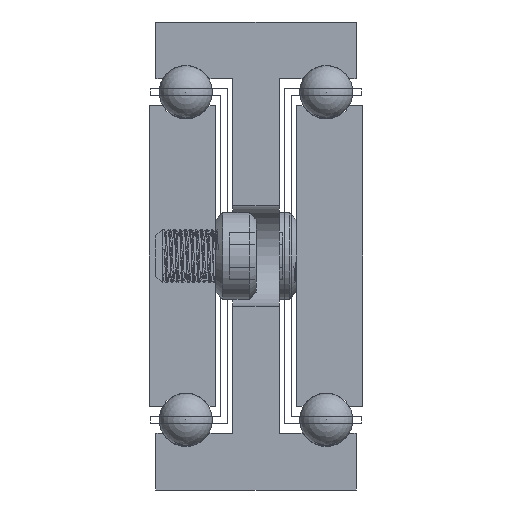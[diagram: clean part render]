
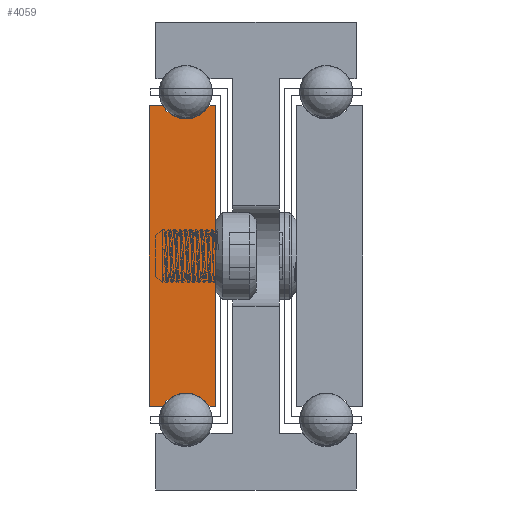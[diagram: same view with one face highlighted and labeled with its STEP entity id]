
A CAD part, front view. The second image highlights one B-rep face of the part: STEP entity #4059.
In plain terms, the highlighted planar face has unit normal (0, -1, 0).
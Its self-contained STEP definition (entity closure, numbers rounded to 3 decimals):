
#304=LINE('',#6166,#516);
#307=LINE('',#6172,#519);
#311=LINE('',#6184,#523);
#314=LINE('',#6190,#526);
#317=LINE('',#6196,#529);
#321=LINE('',#6206,#533);
#516=VECTOR('',#4926,1.);
#519=VECTOR('',#4931,1.);
#523=VECTOR('',#4943,1.);
#526=VECTOR('',#4948,1.);
#529=VECTOR('',#4953,1.);
#533=VECTOR('',#4965,1.);
#733=PLANE('',#4379);
#1065=FACE_OUTER_BOUND('',#1311,.T.);
#1311=EDGE_LOOP('',(#3180,#3181,#3182,#3183,#3184,#3185,#3186,#3187));
#1725=CIRCLE('',#4370,4.);
#1727=CIRCLE('',#4376,4.);
#2038=VERTEX_POINT('',#6163);
#2039=VERTEX_POINT('',#6165);
#2041=VERTEX_POINT('',#6171);
#2043=VERTEX_POINT('',#6177);
#2045=VERTEX_POINT('',#6183);
#2047=VERTEX_POINT('',#6189);
#2049=VERTEX_POINT('',#6195);
#2051=VERTEX_POINT('',#6201);
#2572=EDGE_CURVE('',#2039,#2038,#304,.T.);
#2575=EDGE_CURVE('',#2041,#2039,#307,.T.);
#2578=EDGE_CURVE('',#2043,#2041,#1725,.T.);
#2581=EDGE_CURVE('',#2045,#2043,#311,.T.);
#2584=EDGE_CURVE('',#2047,#2045,#314,.T.);
#2587=EDGE_CURVE('',#2049,#2047,#317,.T.);
#2590=EDGE_CURVE('',#2051,#2049,#1727,.T.);
#2593=EDGE_CURVE('',#2038,#2051,#321,.T.);
#3180=ORIENTED_EDGE('',*,*,#2593,.T.);
#3181=ORIENTED_EDGE('',*,*,#2590,.T.);
#3182=ORIENTED_EDGE('',*,*,#2587,.T.);
#3183=ORIENTED_EDGE('',*,*,#2584,.T.);
#3184=ORIENTED_EDGE('',*,*,#2581,.T.);
#3185=ORIENTED_EDGE('',*,*,#2578,.T.);
#3186=ORIENTED_EDGE('',*,*,#2575,.T.);
#3187=ORIENTED_EDGE('',*,*,#2572,.T.);
#4059=ADVANCED_FACE('',(#1065),#733,.T.);
#4370=AXIS2_PLACEMENT_3D('',#6178,#4937,#4938);
#4376=AXIS2_PLACEMENT_3D('',#6202,#4959,#4960);
#4379=AXIS2_PLACEMENT_3D('',#6208,#4968,#4969);
#4926=DIRECTION('',(0.,0.,-1.));
#4931=DIRECTION('',(-1.,0.,0.));
#4937=DIRECTION('center_axis',(0.,1.,0.));
#4938=DIRECTION('ref_axis',(-0.866,0.,-0.5));
#4943=DIRECTION('',(-1.,0.,0.));
#4948=DIRECTION('',(0.,0.,1.));
#4953=DIRECTION('',(1.,0.,0.));
#4959=DIRECTION('center_axis',(0.,1.,0.));
#4960=DIRECTION('ref_axis',(0.866,0.,0.5));
#4965=DIRECTION('',(1.,0.,0.));
#4968=DIRECTION('center_axis',(0.,-1.,0.));
#4969=DIRECTION('ref_axis',(1.,0.,0.));
#6163=CARTESIAN_POINT('',(-4873.236,-123.913,552.5));
#6165=CARTESIAN_POINT('',(-4873.236,-123.913,597.5));
#6166=CARTESIAN_POINT('',(-4873.236,-123.913,552.5));
#6171=CARTESIAN_POINT('',(-4871.201,-123.913,597.5));
#6172=CARTESIAN_POINT('',(-4873.236,-123.913,597.5));
#6177=CARTESIAN_POINT('',(-4864.272,-123.913,597.5));
#6178=CARTESIAN_POINT('Origin',(-4867.736,-123.913,599.5));
#6183=CARTESIAN_POINT('',(-4863.236,-123.913,597.5));
#6184=CARTESIAN_POINT('',(-4864.272,-123.913,597.5));
#6189=CARTESIAN_POINT('',(-4863.236,-123.913,552.5));
#6190=CARTESIAN_POINT('',(-4863.236,-123.913,597.5));
#6195=CARTESIAN_POINT('',(-4864.272,-123.913,552.5));
#6196=CARTESIAN_POINT('',(-4863.236,-123.913,552.5));
#6201=CARTESIAN_POINT('',(-4871.201,-123.913,552.5));
#6202=CARTESIAN_POINT('Origin',(-4867.736,-123.913,550.5));
#6206=CARTESIAN_POINT('',(-4871.201,-123.913,552.5));
#6208=CARTESIAN_POINT('Origin',(-4868.242,-123.913,575.));
